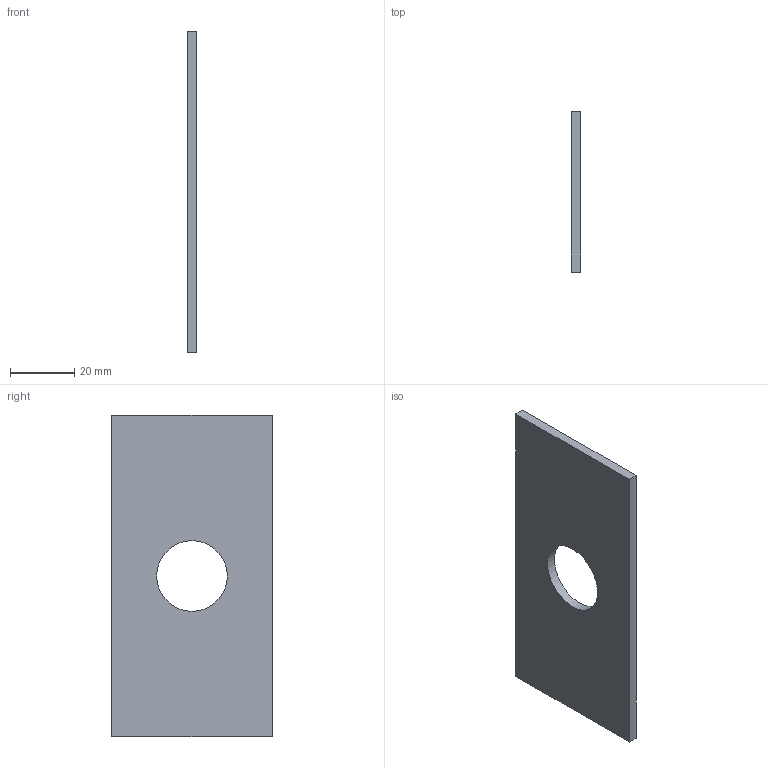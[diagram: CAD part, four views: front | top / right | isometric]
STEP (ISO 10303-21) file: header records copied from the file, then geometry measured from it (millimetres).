
FILE_DESCRIPTION(/* description */ (''),/* implementation_level */ '2;1');
FILE_NAME(/* name */ 'Q:\Neue Struktur\_Bauteile\Supportzeichnungen\Stainless steel button\Illuminated stainless steel button for DoorBird D1101KH.stp',/* time_stamp */ '2022-08-19T09:20:08+02:00',/* author */ ('David Keller'),/* organization */ (''),/* preprocessor_version */ 'ST-DEVELOPER v18.1',/* originating_system */ 'Autodesk Inventor 2020',/* authorisation */ '');
FILE_SCHEMA (('AUTOMOTIVE_DESIGN { 1 0 10303 214 3 1 1 }'));
Length unit declared in the file: millimetre
Products named in the file (1): Illuminated stainless steel button for DoorBird D1101KH
Bounding box: 3 x 50 x 100 mm (x, y, z)
Volume: 13859.6 mm3; surface area: 10347.1 mm2
Topology: 1 solids, 1 shells, 7 faces, 15 edges, 10 vertices
Faces by surface type: plane 6, cylinder 1
Full cylindrical faces by diameter (mm): 22 x1
Entity records: 236 total; most frequent: DIRECTION 33, CARTESIAN_POINT 33, ORIENTED_EDGE 30, EDGE_CURVE 15, LINE 13, VECTOR 13, VERTEX_POINT 10, AXIS2_PLACEMENT_3D 10
